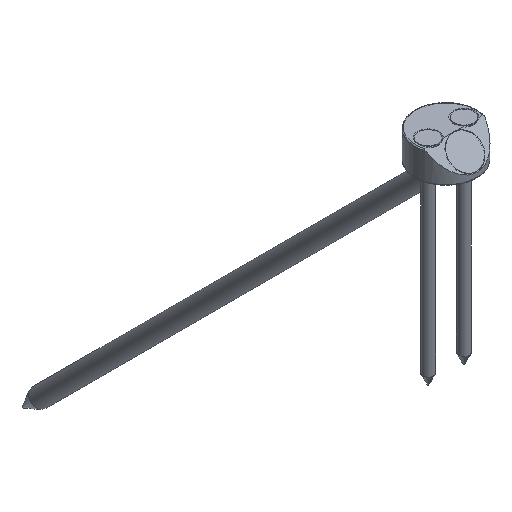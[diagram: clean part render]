
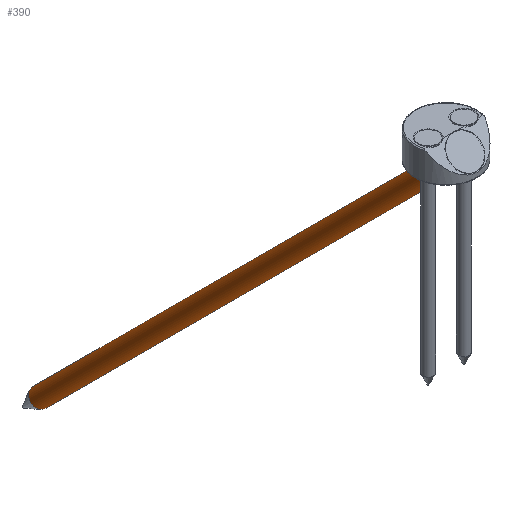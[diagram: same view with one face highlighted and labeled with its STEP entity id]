
A CAD part, isometric view. The second image highlights one B-rep face of the part: STEP entity #390.
In plain terms, the highlighted cylindrical face has radius 5 mm (diameter 10 mm), a full revolution.
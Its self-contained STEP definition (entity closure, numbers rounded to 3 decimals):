
#59=CYLINDRICAL_SURFACE('',#480,5.);
#91=CIRCLE('',#479,5.);
#92=CIRCLE('',#481,5.);
#165=ORIENTED_EDGE('',*,*,#206,.T.);
#166=ORIENTED_EDGE('',*,*,#205,.F.);
#205=EDGE_CURVE('',#238,#238,#91,.T.);
#206=EDGE_CURVE('',#239,#239,#92,.T.);
#238=VERTEX_POINT('',#733);
#239=VERTEX_POINT('',#736);
#297=EDGE_LOOP('',(#165));
#298=EDGE_LOOP('',(#166));
#350=FACE_BOUND('',#297,.T.);
#351=FACE_BOUND('',#298,.T.);
#390=ADVANCED_FACE('',(#350,#351),#59,.T.);
#479=AXIS2_PLACEMENT_3D('',#732,#602,#603);
#480=AXIS2_PLACEMENT_3D('',#734,#604,#605);
#481=AXIS2_PLACEMENT_3D('',#735,#606,#607);
#602=DIRECTION('',(0.,1.,0.));
#603=DIRECTION('',(0.,0.,1.));
#604=DIRECTION('',(0.,1.,0.));
#605=DIRECTION('',(0.,0.,1.));
#606=DIRECTION('',(0.,1.,0.));
#607=DIRECTION('',(0.,0.,1.));
#732=CARTESIAN_POINT('',(0.,42.,0.));
#733=CARTESIAN_POINT('',(0.,42.,5.));
#734=CARTESIAN_POINT('',(0.,54.,0.));
#735=CARTESIAN_POINT('',(0.,-283.,0.));
#736=CARTESIAN_POINT('',(0.,-283.,5.));
